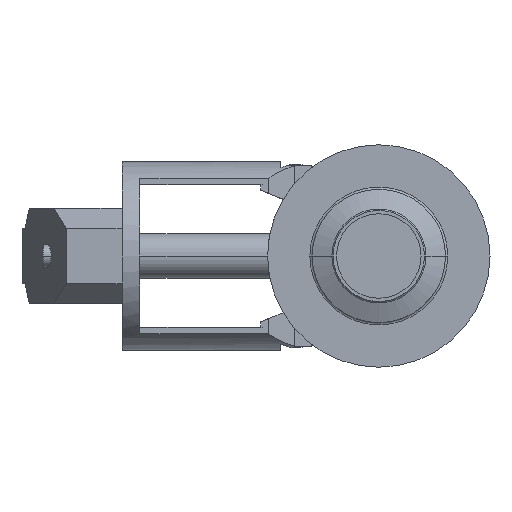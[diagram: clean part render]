
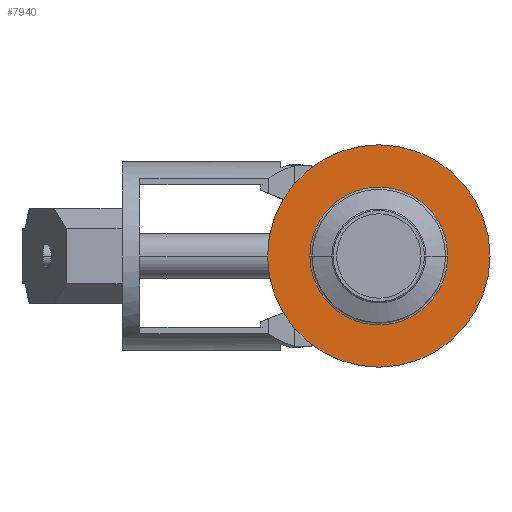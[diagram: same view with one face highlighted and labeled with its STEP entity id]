
A CAD part, left-side view. The second image highlights one B-rep face of the part: STEP entity #7940.
In plain terms, the highlighted planar face has unit normal (-1, 0, 0).
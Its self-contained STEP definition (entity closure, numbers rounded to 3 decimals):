
#7460=CARTESIAN_POINT('',(-108.686,-40.688,
0.));
#7470=VERTEX_POINT('',#7460);
#7550=CARTESIAN_POINT('',(-108.686,59.312,0.));
#7560=VERTEX_POINT('',#7550);
#7590=CARTESIAN_POINT('',(-108.686,9.312,0.));
#7600=DIRECTION('',(-1.,0.,0.));
#7610=DIRECTION('',(0.,1.,0.));
#7620=AXIS2_PLACEMENT_3D('',#7590,#7600,#7610);
#7630=CIRCLE('',#7620,50.);
#7640=EDGE_CURVE('',#7560,#7470,#7630,.T.);
#7690=CARTESIAN_POINT('',(-108.686,50.312,0.));
#7700=DIRECTION('',(1.,0.,0.));
#7710=DIRECTION('',(0.,-1.,0.));
#7720=AXIS2_PLACEMENT_3D('',#7690,#7700,#7710);
#7730=PLANE('',#7720);
#7740=EDGE_CURVE('',#7470,#7560,#7630,.T.);
#7750=ORIENTED_EDGE('',*,*,#7740,.T.);
#7760=ORIENTED_EDGE('',*,*,#7640,.T.);
#7770=EDGE_LOOP('',(#7760,#7750));
#7780=FACE_OUTER_BOUND('',#7770,.T.);
#7790=CARTESIAN_POINT('',(-108.686,9.312,0.));
#7800=DIRECTION('',(-1.,0.,0.));
#7810=DIRECTION('',(0.,1.,0.));
#7820=AXIS2_PLACEMENT_3D('',#7790,#7800,#7810);
#7830=CIRCLE('',#7820,31.);
#7840=CARTESIAN_POINT('',(-108.686,-21.688,0.));
#7850=VERTEX_POINT('',#7840);
#7860=CARTESIAN_POINT('',(-108.686,40.312,0.));
#7870=VERTEX_POINT('',#7860);
#7880=EDGE_CURVE('',#7850,#7870,#7830,.T.);
#7890=ORIENTED_EDGE('',*,*,#7880,.F.);
#7900=EDGE_CURVE('',#7870,#7850,#7830,.T.);
#7910=ORIENTED_EDGE('',*,*,#7900,.F.);
#7920=EDGE_LOOP('',(#7910,#7890));
#7930=FACE_BOUND('',#7920,.T.);
#7940=ADVANCED_FACE('',(#7780,#7930),#7730,.F.);
